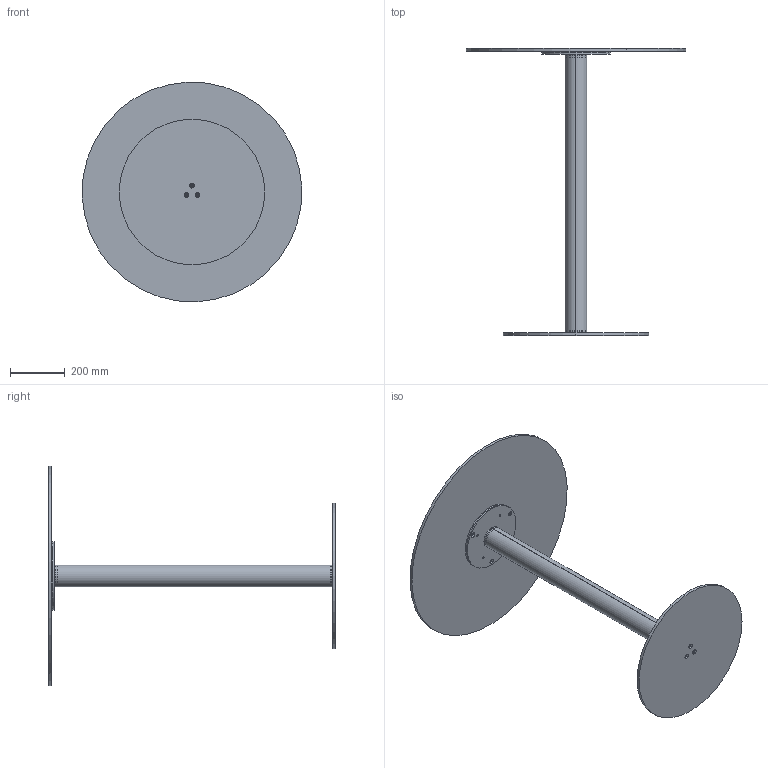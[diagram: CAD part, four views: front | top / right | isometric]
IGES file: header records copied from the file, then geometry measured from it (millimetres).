
Start section: SolidWorks IGES file using analytic representation for surfaces
Global section: file name: Y:\eforma\TECNICO\SOLIDWORKS\E-FORMA\5-TAVOLINI BISTRO\CILINDRO BISTRÒ H105\02 parts\CB40G.IGS; native system: SolidWorks 2022; preprocessor: SolidWorks 2022; author: eforma.tech; date: 240808.105315; units: millimetre
Bounding box: 799.2 x 1045 x 799.2 mm (x, y, z)
Volume: 8304845.7 mm3; surface area: 2212413.4 mm2
Topology: 7 solids, 7 shells, 104 faces, 244 edges, 154 vertices
Faces by surface type: revolution 90, plane 14
